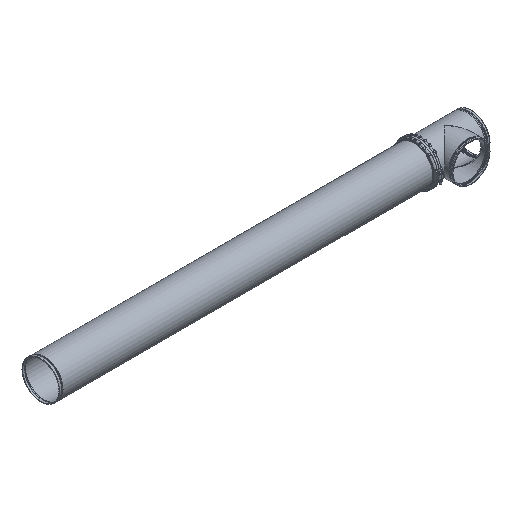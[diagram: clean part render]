
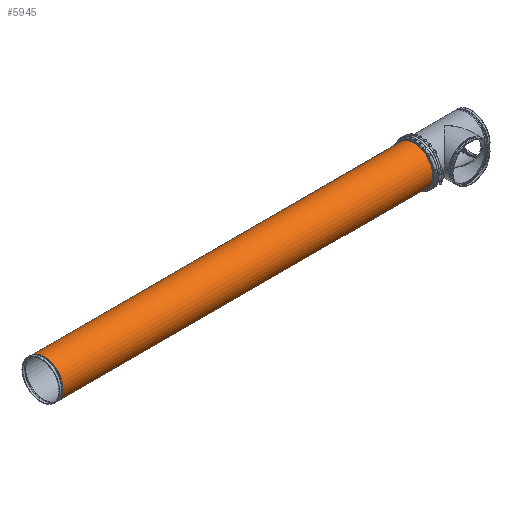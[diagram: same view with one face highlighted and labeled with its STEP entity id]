
A CAD part, isometric view. The second image highlights one B-rep face of the part: STEP entity #5945.
In plain terms, the highlighted cylindrical face has radius 304.8 mm (diameter 609.6 mm), a full revolution.
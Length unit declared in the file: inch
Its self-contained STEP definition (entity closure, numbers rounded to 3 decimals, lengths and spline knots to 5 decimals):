
#310=LINE('',#8890,#626);
#626=VECTOR('',#7138,12.);
#941=CYLINDRICAL_SURFACE('',#6375,12.);
#1101=FACE_OUTER_BOUND('',#1411,.T.);
#1411=EDGE_LOOP('',(#3729,#3730,#3731,#3732,#3733,#3734));
#1755=CIRCLE('',#6373,12.);
#1756=CIRCLE('',#6374,12.);
#1757=CIRCLE('',#6376,12.);
#1758=CIRCLE('',#6377,12.);
#2152=VERTEX_POINT('',#8880);
#2153=VERTEX_POINT('',#8881);
#2154=VERTEX_POINT('',#8886);
#2155=VERTEX_POINT('',#8887);
#2789=EDGE_CURVE('',#2152,#2153,#1755,.T.);
#2790=EDGE_CURVE('',#2153,#2152,#1756,.T.);
#2792=EDGE_CURVE('',#2154,#2155,#1757,.T.);
#2793=EDGE_CURVE('',#2155,#2154,#1758,.T.);
#2794=EDGE_CURVE('',#2155,#2153,#310,.T.);
#3729=ORIENTED_EDGE('',*,*,#2792,.F.);
#3730=ORIENTED_EDGE('',*,*,#2793,.F.);
#3731=ORIENTED_EDGE('',*,*,#2794,.T.);
#3732=ORIENTED_EDGE('',*,*,#2790,.T.);
#3733=ORIENTED_EDGE('',*,*,#2789,.T.);
#3734=ORIENTED_EDGE('',*,*,#2794,.F.);
#5945=ADVANCED_FACE('',(#1101),#941,.T.);
#6373=AXIS2_PLACEMENT_3D('',#8882,#7127,#7128);
#6374=AXIS2_PLACEMENT_3D('',#8883,#7129,#7130);
#6375=AXIS2_PLACEMENT_3D('',#8885,#7132,#7133);
#6376=AXIS2_PLACEMENT_3D('',#8888,#7134,#7135);
#6377=AXIS2_PLACEMENT_3D('',#8889,#7136,#7137);
#7127=DIRECTION('center_axis',(1.,0.,0.));
#7128=DIRECTION('ref_axis',(0.,1.,0.));
#7129=DIRECTION('center_axis',(1.,0.,0.));
#7130=DIRECTION('ref_axis',(0.,1.,0.));
#7132=DIRECTION('center_axis',(1.,0.,0.));
#7133=DIRECTION('ref_axis',(0.,1.,0.));
#7134=DIRECTION('center_axis',(1.,0.,0.));
#7135=DIRECTION('ref_axis',(0.,1.,0.));
#7136=DIRECTION('center_axis',(1.,0.,0.));
#7137=DIRECTION('ref_axis',(0.,1.,0.));
#7138=DIRECTION('',(-1.,0.,0.));
#8880=CARTESIAN_POINT('',(-117.88023,12.,0.));
#8881=CARTESIAN_POINT('',(-117.88023,-12.,0.));
#8882=CARTESIAN_POINT('Origin',(-117.88023,0.,
0.));
#8883=CARTESIAN_POINT('Origin',(-117.88023,0.,
0.));
#8885=CARTESIAN_POINT('Origin',(0.,0.,
0.));
#8886=CARTESIAN_POINT('',(117.88023,12.,0.));
#8887=CARTESIAN_POINT('',(117.88023,-12.,0.));
#8888=CARTESIAN_POINT('Origin',(117.88023,0.,0.));
#8889=CARTESIAN_POINT('Origin',(117.88023,0.,0.));
#8890=CARTESIAN_POINT('',(0.,-12.,0.));
